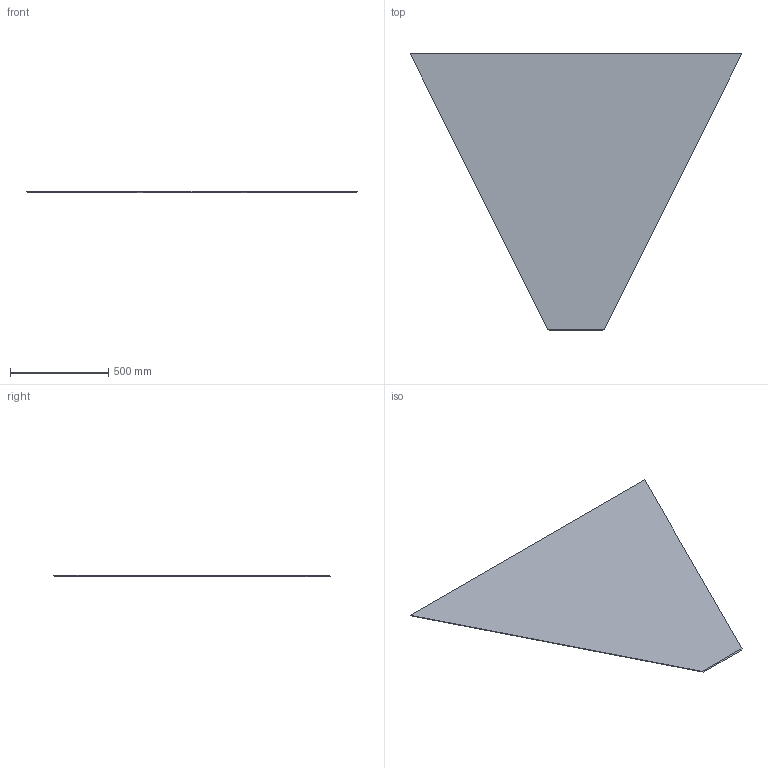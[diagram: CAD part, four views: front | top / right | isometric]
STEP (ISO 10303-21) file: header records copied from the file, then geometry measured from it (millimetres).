
FILE_DESCRIPTION(('Open CASCADE Model'),'2;1');
FILE_NAME('Open CASCADE Shape Model','2026-10-15T15:10:04',('Author'),( 'Open CASCADE'),'Open CASCADE STEP processor 8.0','Open CASCADE 8.0' ,'Unknown');
FILE_SCHEMA(('AUTOMOTIVE_DESIGN { 1 0 10303 214 1 1 1 1 }'));
Length unit declared in the file: millimetre
Products named in the file (1): TOL_PANEL_CONO_6mm_P05 38
Bounding box: 1686.95 x 1403.46 x 6 mm (x, y, z)
Volume: 8232186.6 mm3; surface area: 2781400.6 mm2
Topology: 1 solids, 1 shells, 6 faces, 12 edges, 8 vertices
Faces by surface type: plane 6
Entity records: 310 total; most frequent: CARTESIAN_POINT 63, DIRECTION 38, ORIENTED_EDGE 24, LINE 24, VECTOR 24, PCURVE 24, DEFINITIONAL_REPRESENTATION 24, EDGE_CURVE 12
